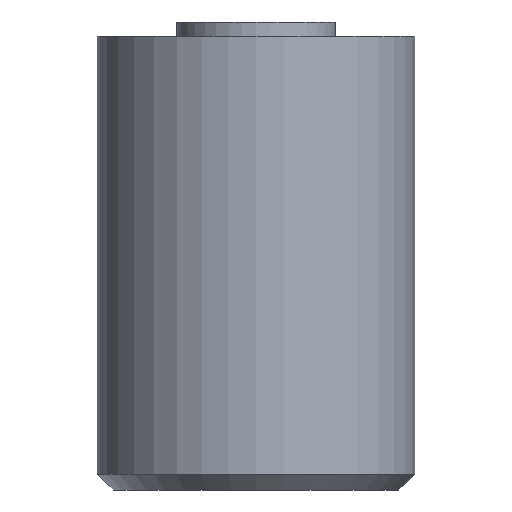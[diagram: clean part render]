
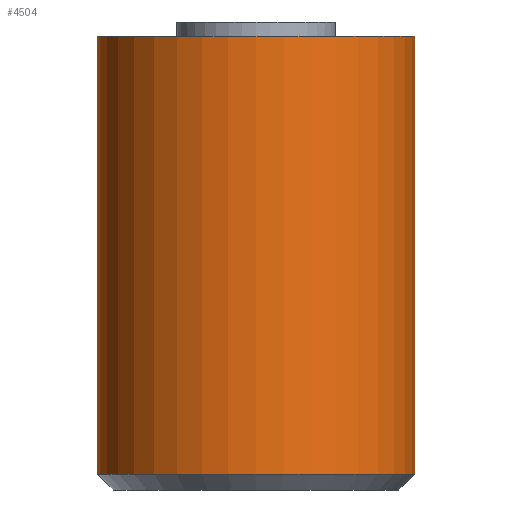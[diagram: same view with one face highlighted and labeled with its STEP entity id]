
A CAD part, front view. The second image highlights one B-rep face of the part: STEP entity #4504.
In plain terms, the highlighted cylindrical face has radius 1.4 mm (diameter 2.8 mm), a full revolution.
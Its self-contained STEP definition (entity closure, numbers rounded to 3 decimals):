
#31=CYLINDRICAL_SURFACE('',#4686,1.4);
#32=CIRCLE('',#4569,1.4);
#87=CIRCLE('',#4684,1.4);
#443=FACE_OUTER_BOUND('',#705,.T.);
#705=EDGE_LOOP('',(#4124,#4125,#4126,#4127));
#1054=LINE('',#8996,#1402);
#1402=VECTOR('',#5371,1.4);
#2015=VERTEX_POINT('',#8683);
#2114=VERTEX_POINT('',#8990);
#2635=EDGE_CURVE('',#2015,#2015,#32,.T.);
#2783=EDGE_CURVE('',#2114,#2114,#87,.T.);
#2786=EDGE_CURVE('',#2015,#2114,#1054,.T.);
#4124=ORIENTED_EDGE('',*,*,#2635,.F.);
#4125=ORIENTED_EDGE('',*,*,#2786,.T.);
#4126=ORIENTED_EDGE('',*,*,#2783,.F.);
#4127=ORIENTED_EDGE('',*,*,#2786,.F.);
#4504=ADVANCED_FACE('',(#443),#31,.T.);
#4569=AXIS2_PLACEMENT_3D('',#8684,#5041,#5042);
#4684=AXIS2_PLACEMENT_3D('',#8991,#5364,#5365);
#4686=AXIS2_PLACEMENT_3D('',#8995,#5369,#5370);
#5041=DIRECTION('center_axis',(0.,0.,1.));
#5042=DIRECTION('ref_axis',(1.,0.,0.));
#5364=DIRECTION('center_axis',(0.,0.,-1.));
#5365=DIRECTION('ref_axis',(1.,0.,0.));
#5369=DIRECTION('center_axis',(0.,0.,1.));
#5370=DIRECTION('ref_axis',(1.,0.,0.));
#5371=DIRECTION('',(0.,0.,-1.));
#8683=CARTESIAN_POINT('',(-1.4,0.,4.));
#8684=CARTESIAN_POINT('Origin',(0.,0.,4.));
#8990=CARTESIAN_POINT('',(-1.4,0.,0.141));
#8991=CARTESIAN_POINT('Origin',(0.,0.,0.141));
#8995=CARTESIAN_POINT('Origin',(0.,0.,0.));
#8996=CARTESIAN_POINT('',(-1.4,0.,0.));
